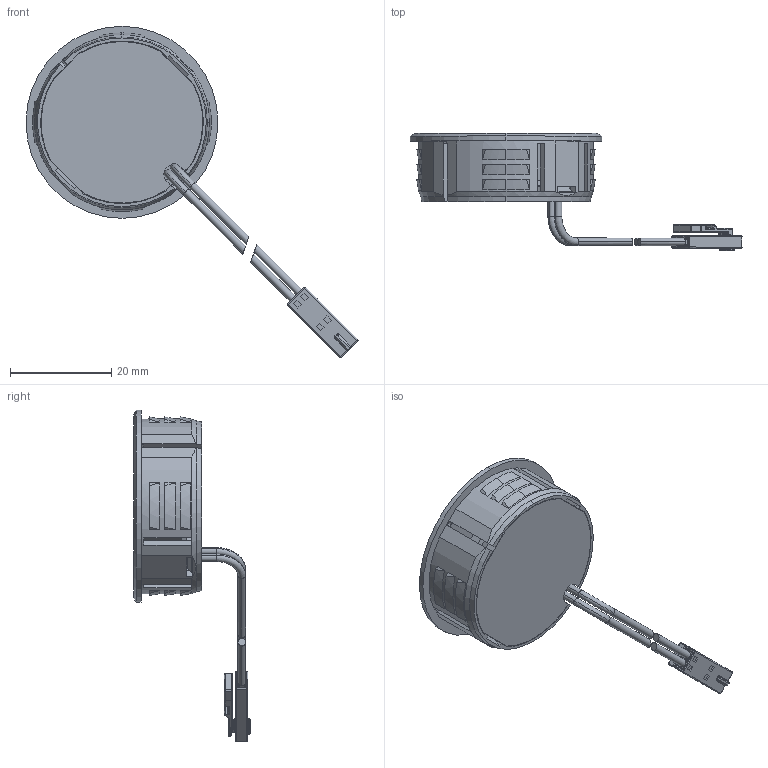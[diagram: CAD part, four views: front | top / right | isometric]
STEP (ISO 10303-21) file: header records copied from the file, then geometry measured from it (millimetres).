
FILE_DESCRIPTION (( 'STEP AP203' ), '1' );
FILE_NAME ('USB_Einbausteckdose_TYP_C_24.STEP', '2024-12-03T12:25:57', ( '' ), ( '' ), 'SwSTEP 2.0', 'SolidWorks 2023', '' );
FILE_SCHEMA (( 'CONFIG_CONTROL_DESIGN' ));
Length unit declared in the file: millimetre
Products named in the file (6): Schraube_STS-plus_KN6039_1x5; 1916503_AN_gebogen_75mm; PLATINE_USB_TYP-C_2023_02_27; Gehäusedeckel_USB_TYP_C; USB_Einbausteckdose_TYP_C_24; Untergehäuse USB TYP C
Assembly tree (6 placements, depth 2):
  USB_Einbausteckdose_TYP_C_24
    Gehäusedeckel_USB_TYP_C
    PLATINE_USB_TYP-C_2023_02_27
    Untergehäuse USB TYP C
    Schraube_STS-plus_KN6039_1x5  x2
    1916503_AN_gebogen_75mm
Bounding box: 65.73 x 23.11 x 65.59 mm (x, y, z)
Volume: 7597.4 mm3; surface area: 11324.4 mm2
Topology: 12 solids, 12 shells, 685 faces, 1707 edges, 1040 vertices
Faces by surface type: plane 337, cylinder 217, torus 38, bspline 37, sphere 29, cone 27
Entity records: 28244 total; most frequent: CARTESIAN_POINT 12189, DIRECTION 3232, ORIENTED_EDGE 3200, EDGE_CURVE 1600, AXIS2_PLACEMENT_3D 1145, VERTEX_POINT 996, LINE 942, VECTOR 942
